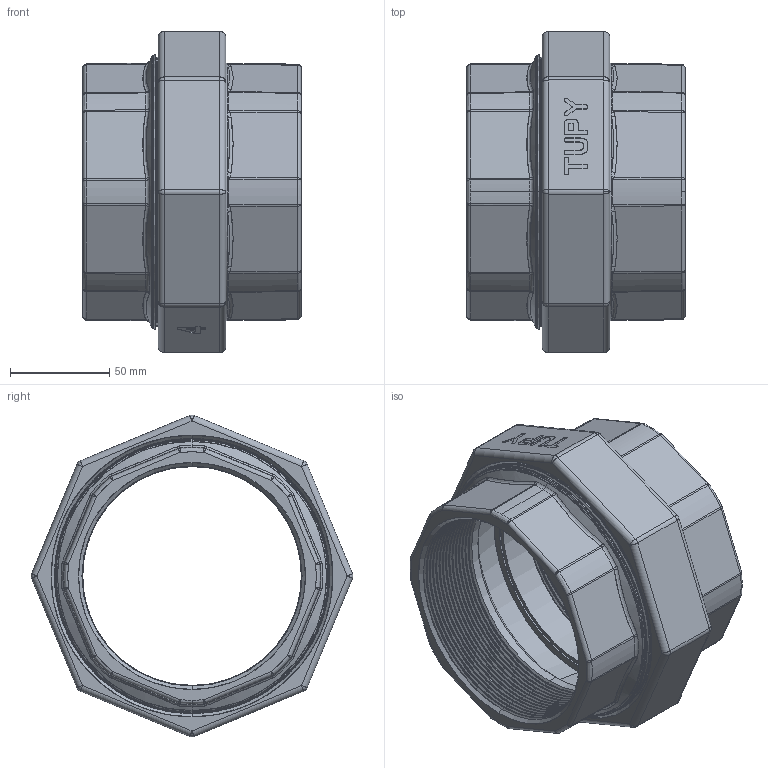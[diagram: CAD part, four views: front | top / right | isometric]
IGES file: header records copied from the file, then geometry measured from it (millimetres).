
Start section: SolidWorks IGES file using analytic representation for surfaces
Global section: file name: C:\Users\Joel Rosa\Desktop\Tubulação\12-63-X\12-63-014.IGS; native system: SolidWorks 2011; preprocessor: SolidWorks 2011; author: Joel Rosa; date: 130721.141457; units: millimetre
Bounding box: 110 x 161.86 x 161.86 mm (x, y, z)
Surface area: 176449 mm2 (no closed solid volume)
Topology: 0 solids, 0 shells, 870 faces, 5916 edges, 5910 vertices
Faces by surface type: bspline 561, revolution 309
